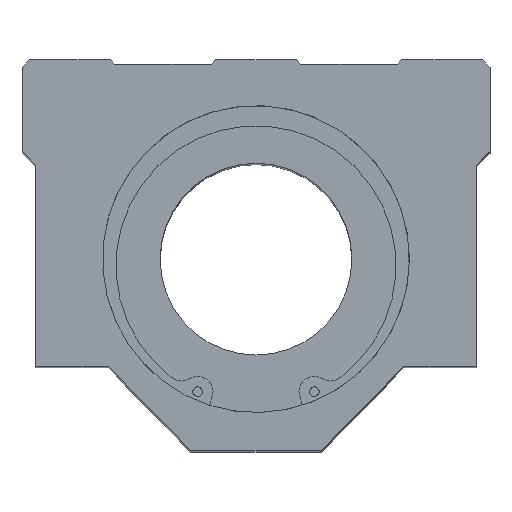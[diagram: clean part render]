
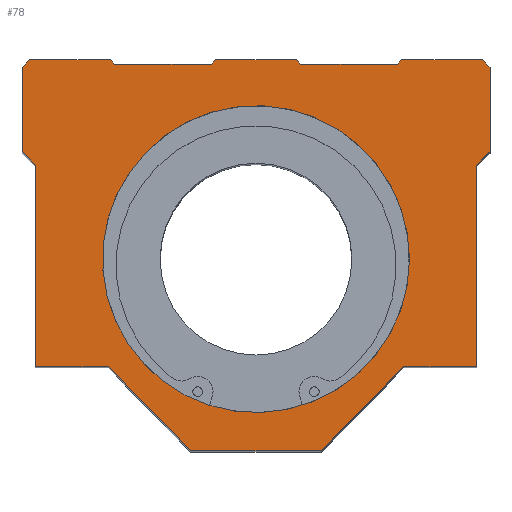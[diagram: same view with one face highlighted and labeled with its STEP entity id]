
A CAD part, top view. The second image highlights one B-rep face of the part: STEP entity #78.
In plain terms, the highlighted planar face has unit normal (0, 0, 1).
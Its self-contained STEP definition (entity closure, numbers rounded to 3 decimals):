
#78=ADVANCED_FACE('',(#149,#150),#151,.T.);
#149=FACE_OUTER_BOUND('',#310,.T.);
#150=FACE_BOUND('',#311,.T.);
#151=PLANE('',#312);
#310=EDGE_LOOP('',(#492,#493,#494,#495,#496,#497,#498,#499,#500,#501,#502,#503,#504,#505,#506,#507,#508,#509,#510,#511,#512,#513));
#311=EDGE_LOOP('',(#514));
#312=AXIS2_PLACEMENT_3D('',#515,#516,#517);
#492=ORIENTED_EDGE('',*,*,#976,.T.);
#493=ORIENTED_EDGE('',*,*,#977,.T.);
#494=ORIENTED_EDGE('',*,*,#978,.T.);
#495=ORIENTED_EDGE('',*,*,#979,.T.);
#496=ORIENTED_EDGE('',*,*,#980,.T.);
#497=ORIENTED_EDGE('',*,*,#981,.T.);
#498=ORIENTED_EDGE('',*,*,#982,.T.);
#499=ORIENTED_EDGE('',*,*,#983,.T.);
#500=ORIENTED_EDGE('',*,*,#984,.T.);
#501=ORIENTED_EDGE('',*,*,#985,.T.);
#502=ORIENTED_EDGE('',*,*,#986,.T.);
#503=ORIENTED_EDGE('',*,*,#987,.T.);
#504=ORIENTED_EDGE('',*,*,#988,.T.);
#505=ORIENTED_EDGE('',*,*,#989,.T.);
#506=ORIENTED_EDGE('',*,*,#990,.T.);
#507=ORIENTED_EDGE('',*,*,#991,.T.);
#508=ORIENTED_EDGE('',*,*,#992,.T.);
#509=ORIENTED_EDGE('',*,*,#993,.T.);
#510=ORIENTED_EDGE('',*,*,#994,.T.);
#511=ORIENTED_EDGE('',*,*,#995,.T.);
#512=ORIENTED_EDGE('',*,*,#996,.T.);
#513=ORIENTED_EDGE('',*,*,#997,.T.);
#514=ORIENTED_EDGE('',*,*,#998,.T.);
#515=CARTESIAN_POINT('',(-48.5,62.5,107.5));
#516=DIRECTION('',(0.0,-0.0,1.0));
#517=DIRECTION('',(0.0,1.0,0.0));
#976=EDGE_CURVE('',#1142,#1143,#1144,.T.);
#977=EDGE_CURVE('',#1143,#1145,#1146,.T.);
#978=EDGE_CURVE('',#1145,#1147,#1148,.T.);
#979=EDGE_CURVE('',#1147,#1149,#1150,.T.);
#980=EDGE_CURVE('',#1149,#1151,#1152,.T.);
#981=EDGE_CURVE('',#1151,#1153,#1154,.T.);
#982=EDGE_CURVE('',#1153,#1155,#1156,.T.);
#983=EDGE_CURVE('',#1155,#1157,#1158,.T.);
#984=EDGE_CURVE('',#1157,#1159,#1160,.T.);
#985=EDGE_CURVE('',#1159,#1161,#1162,.T.);
#986=EDGE_CURVE('',#1161,#1163,#1164,.T.);
#987=EDGE_CURVE('',#1163,#1165,#1166,.T.);
#988=EDGE_CURVE('',#1165,#1167,#1168,.T.);
#989=EDGE_CURVE('',#1167,#1169,#1170,.T.);
#990=EDGE_CURVE('',#1169,#1171,#1172,.T.);
#991=EDGE_CURVE('',#1171,#1173,#1174,.T.);
#992=EDGE_CURVE('',#1173,#1175,#1176,.T.);
#993=EDGE_CURVE('',#1175,#1177,#1178,.T.);
#994=EDGE_CURVE('',#1177,#1179,#1180,.T.);
#995=EDGE_CURVE('',#1179,#1181,#1182,.T.);
#996=EDGE_CURVE('',#1181,#1183,#1184,.T.);
#997=EDGE_CURVE('',#1183,#1142,#1185,.T.);
#998=EDGE_CURVE('',#1186,#1186,#1187,.F.);
#1142=VERTEX_POINT('',#1406);
#1143=VERTEX_POINT('',#1407);
#1144=LINE('',#1408,#1409);
#1145=VERTEX_POINT('',#1410);
#1146=LINE('',#1411,#1412);
#1147=VERTEX_POINT('',#1413);
#1148=LINE('',#1414,#1415);
#1149=VERTEX_POINT('',#1416);
#1150=LINE('',#1417,#1418);
#1151=VERTEX_POINT('',#1419);
#1152=LINE('',#1420,#1421);
#1153=VERTEX_POINT('',#1422);
#1154=LINE('',#1423,#1424);
#1155=VERTEX_POINT('',#1425);
#1156=LINE('',#1426,#1427);
#1157=VERTEX_POINT('',#1428);
#1158=LINE('',#1429,#1430);
#1159=VERTEX_POINT('',#1431);
#1160=LINE('',#1432,#1433);
#1161=VERTEX_POINT('',#1434);
#1162=LINE('',#1435,#1436);
#1163=VERTEX_POINT('',#1437);
#1164=LINE('',#1438,#1439);
#1165=VERTEX_POINT('',#1440);
#1166=LINE('',#1441,#1442);
#1167=VERTEX_POINT('',#1443);
#1168=LINE('',#1444,#1445);
#1169=VERTEX_POINT('',#1446);
#1170=LINE('',#1447,#1448);
#1171=VERTEX_POINT('',#1449);
#1172=LINE('',#1450,#1451);
#1173=VERTEX_POINT('',#1452);
#1174=LINE('',#1453,#1454);
#1175=VERTEX_POINT('',#1455);
#1176=LINE('',#1456,#1457);
#1177=VERTEX_POINT('',#1458);
#1178=LINE('',#1459,#1460);
#1179=VERTEX_POINT('',#1461);
#1180=LINE('',#1462,#1463);
#1181=VERTEX_POINT('',#1464);
#1182=LINE('',#1465,#1466);
#1183=VERTEX_POINT('',#1467);
#1184=LINE('',#1468,#1469);
#1185=LINE('',#1470,#1471);
#1186=VERTEX_POINT('',#1472);
#1187=CIRCLE('',#1473,40.0);
#1406=CARTESIAN_POINT('',(-36.8,50.8,107.5));
#1407=CARTESIAN_POINT('',(-38.0,52.0,107.5));
#1408=CARTESIAN_POINT('',(-36.8,50.8,107.5));
#1409=VECTOR('',#1760,1.0);
#1410=CARTESIAN_POINT('',(-59.0,52.0,107.5));
#1411=CARTESIAN_POINT('',(-38.0,52.0,107.5));
#1412=VECTOR('',#1761,1.0);
#1413=CARTESIAN_POINT('',(-61.0,50.0,107.5));
#1414=CARTESIAN_POINT('',(-59.0,52.0,107.5));
#1415=VECTOR('',#1762,1.0);
#1416=CARTESIAN_POINT('',(-61.0,28.0,107.5));
#1417=CARTESIAN_POINT('',(-61.0,50.0,107.5));
#1418=VECTOR('',#1763,1.0);
#1419=CARTESIAN_POINT('',(-57.5,24.5,107.5));
#1420=CARTESIAN_POINT('',(-61.0,28.0,107.5));
#1421=VECTOR('',#1764,1.0);
#1422=CARTESIAN_POINT('',(-57.5,-28.0,107.5));
#1423=CARTESIAN_POINT('',(-57.5,24.5,107.5));
#1424=VECTOR('',#1765,1.0);
#1425=CARTESIAN_POINT('',(-38.5,-28.0,107.5));
#1426=CARTESIAN_POINT('',(-57.5,-28.0,107.5));
#1427=VECTOR('',#1766,1.0);
#1428=CARTESIAN_POINT('',(-17.0,-50.0,107.5));
#1429=CARTESIAN_POINT('',(-38.5,-28.0,107.5));
#1430=VECTOR('',#1767,1.0);
#1431=CARTESIAN_POINT('',(17.0,-50.0,107.5));
#1432=CARTESIAN_POINT('',(-17.0,-50.0,107.5));
#1433=VECTOR('',#1768,1.0);
#1434=CARTESIAN_POINT('',(38.5,-28.0,107.5));
#1435=CARTESIAN_POINT('',(17.0,-50.0,107.5));
#1436=VECTOR('',#1769,1.0);
#1437=CARTESIAN_POINT('',(57.5,-28.0,107.5));
#1438=CARTESIAN_POINT('',(38.5,-28.0,107.5));
#1439=VECTOR('',#1770,1.0);
#1440=CARTESIAN_POINT('',(57.5,24.5,107.5));
#1441=CARTESIAN_POINT('',(57.5,-28.0,107.5));
#1442=VECTOR('',#1771,1.0);
#1443=CARTESIAN_POINT('',(61.0,28.0,107.5));
#1444=CARTESIAN_POINT('',(57.5,24.5,107.5));
#1445=VECTOR('',#1772,1.0);
#1446=CARTESIAN_POINT('',(61.0,50.0,107.5));
#1447=CARTESIAN_POINT('',(61.0,28.0,107.5));
#1448=VECTOR('',#1773,1.0);
#1449=CARTESIAN_POINT('',(59.0,52.0,107.5));
#1450=CARTESIAN_POINT('',(61.0,50.0,107.5));
#1451=VECTOR('',#1774,1.0);
#1452=CARTESIAN_POINT('',(38.0,52.0,107.5));
#1453=CARTESIAN_POINT('',(59.0,52.0,107.5));
#1454=VECTOR('',#1775,1.0);
#1455=CARTESIAN_POINT('',(36.8,50.8,107.5));
#1456=CARTESIAN_POINT('',(38.0,52.0,107.5));
#1457=VECTOR('',#1776,1.0);
#1458=CARTESIAN_POINT('',(11.7,50.8,107.5));
#1459=CARTESIAN_POINT('',(36.8,50.8,107.5));
#1460=VECTOR('',#1777,1.0);
#1461=CARTESIAN_POINT('',(10.5,52.0,107.5));
#1462=CARTESIAN_POINT('',(11.7,50.8,107.5));
#1463=VECTOR('',#1778,1.0);
#1464=CARTESIAN_POINT('',(-10.5,52.0,107.5));
#1465=CARTESIAN_POINT('',(10.5,52.0,107.5));
#1466=VECTOR('',#1779,1.0);
#1467=CARTESIAN_POINT('',(-11.7,50.8,107.5));
#1468=CARTESIAN_POINT('',(-10.5,52.0,107.5));
#1469=VECTOR('',#1780,1.0);
#1470=CARTESIAN_POINT('',(-11.7,50.8,107.5));
#1471=VECTOR('',#1781,1.0);
#1472=CARTESIAN_POINT('',(40.0,0.,107.5));
#1473=AXIS2_PLACEMENT_3D('',#1782,#1783,#1784);
#1760=DIRECTION('',(-0.707,0.707,0.0));
#1761=DIRECTION('',(-1.0,0.0,0.0));
#1762=DIRECTION('',(-0.707,-0.707,0.0));
#1763=DIRECTION('',(0.0,-1.0,0.0));
#1764=DIRECTION('',(0.707,-0.707,0.0));
#1765=DIRECTION('',(0.0,-1.0,0.0));
#1766=DIRECTION('',(1.0,0.0,0.0));
#1767=DIRECTION('',(0.699,-0.715,0.0));
#1768=DIRECTION('',(1.0,0.0,0.0));
#1769=DIRECTION('',(0.699,0.715,0.0));
#1770=DIRECTION('',(1.0,0.0,0.0));
#1771=DIRECTION('',(0.0,1.0,0.0));
#1772=DIRECTION('',(0.707,0.707,0.0));
#1773=DIRECTION('',(0.0,1.0,0.0));
#1774=DIRECTION('',(-0.707,0.707,0.0));
#1775=DIRECTION('',(-1.0,0.0,0.0));
#1776=DIRECTION('',(-0.707,-0.707,0.0));
#1777=DIRECTION('',(-1.0,0.0,0.0));
#1778=DIRECTION('',(-0.707,0.707,0.0));
#1779=DIRECTION('',(-1.0,0.0,0.0));
#1780=DIRECTION('',(-0.707,-0.707,0.0));
#1781=DIRECTION('',(-1.0,0.0,0.0));
#1782=CARTESIAN_POINT('',(0.0,0.0,107.5));
#1783=DIRECTION('',(0.0,0.0,1.0));
#1784=DIRECTION('',(1.0,0.0,0.0));
